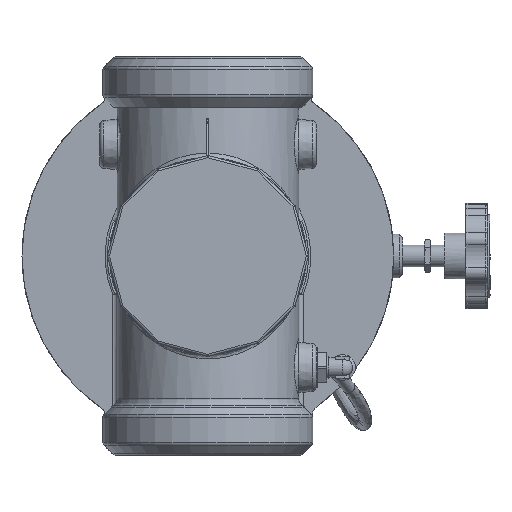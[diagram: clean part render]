
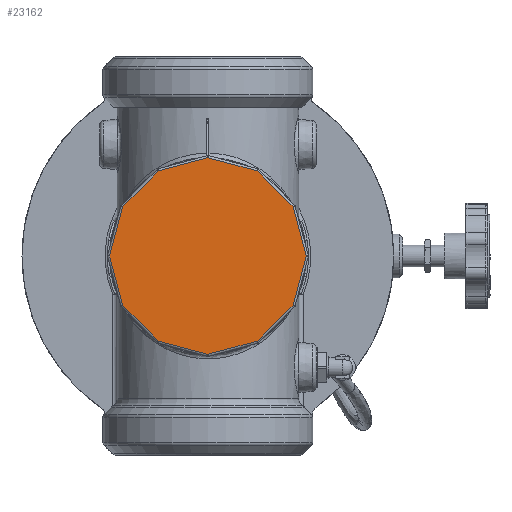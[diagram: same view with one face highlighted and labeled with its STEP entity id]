
A CAD part, front view. The second image highlights one B-rep face of the part: STEP entity #23162.
In plain terms, the highlighted planar face has unit normal (0, -1, 0).
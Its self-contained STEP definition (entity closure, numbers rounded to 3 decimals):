
#1369=PLANE('',#25081);
#2753=FACE_OUTER_BOUND('',#4199,.T.);
#4199=EDGE_LOOP('',(#16747,#16748,#16749,#16750,#16751,#16752,#16753,#16754,
#16755,#16756,#16757,#16758));
#6946=LINE('',#34631,#8236);
#6949=LINE('',#34644,#8239);
#7168=LINE('',#46627,#8458);
#7172=LINE('',#46636,#8462);
#7174=LINE('',#46639,#8464);
#7178=LINE('',#46648,#8468);
#7182=LINE('',#46657,#8472);
#7186=LINE('',#46666,#8476);
#7190=LINE('',#46675,#8480);
#7194=LINE('',#46684,#8484);
#7200=LINE('',#46699,#8490);
#7206=LINE('',#46714,#8496);
#8236=VECTOR('',#27474,23.275);
#8239=VECTOR('',#27487,23.275);
#8458=VECTOR('',#28704,23.275);
#8462=VECTOR('',#28714,23.275);
#8464=VECTOR('',#28718,23.275);
#8468=VECTOR('',#28728,23.275);
#8472=VECTOR('',#28738,23.275);
#8476=VECTOR('',#28748,23.275);
#8480=VECTOR('',#28758,23.275);
#8484=VECTOR('',#28768,23.275);
#8490=VECTOR('',#28784,23.275);
#8496=VECTOR('',#28800,23.275);
#9609=VERTEX_POINT('',#34627);
#9611=VERTEX_POINT('',#34630);
#9616=VERTEX_POINT('',#34642);
#9995=VERTEX_POINT('',#46561);
#9999=VERTEX_POINT('',#46572);
#10003=VERTEX_POINT('',#46581);
#10005=VERTEX_POINT('',#46586);
#10009=VERTEX_POINT('',#46595);
#10011=VERTEX_POINT('',#46600);
#10015=VERTEX_POINT('',#46609);
#10017=VERTEX_POINT('',#46614);
#10021=VERTEX_POINT('',#46623);
#11825=EDGE_CURVE('',#9609,#9611,#6946,.T.);
#11832=EDGE_CURVE('',#9616,#9609,#6949,.T.);
#12486=EDGE_CURVE('',#10017,#10021,#7168,.T.);
#12491=EDGE_CURVE('',#10021,#10015,#7172,.T.);
#12493=EDGE_CURVE('',#10011,#10017,#7174,.T.);
#12498=EDGE_CURVE('',#10015,#10009,#7178,.T.);
#12503=EDGE_CURVE('',#10005,#10011,#7182,.T.);
#12508=EDGE_CURVE('',#10009,#10003,#7186,.T.);
#12513=EDGE_CURVE('',#9999,#10005,#7190,.T.);
#12518=EDGE_CURVE('',#10003,#9616,#7194,.T.);
#12526=EDGE_CURVE('',#9995,#9999,#7200,.T.);
#12534=EDGE_CURVE('',#9611,#9995,#7206,.T.);
#16747=ORIENTED_EDGE('',*,*,#12486,.F.);
#16748=ORIENTED_EDGE('',*,*,#12493,.F.);
#16749=ORIENTED_EDGE('',*,*,#12503,.F.);
#16750=ORIENTED_EDGE('',*,*,#12513,.F.);
#16751=ORIENTED_EDGE('',*,*,#12526,.F.);
#16752=ORIENTED_EDGE('',*,*,#12534,.F.);
#16753=ORIENTED_EDGE('',*,*,#11825,.F.);
#16754=ORIENTED_EDGE('',*,*,#11832,.F.);
#16755=ORIENTED_EDGE('',*,*,#12518,.F.);
#16756=ORIENTED_EDGE('',*,*,#12508,.F.);
#16757=ORIENTED_EDGE('',*,*,#12498,.F.);
#16758=ORIENTED_EDGE('',*,*,#12491,.F.);
#23162=ADVANCED_FACE('',(#2753),#1369,.F.);
#25081=AXIS2_PLACEMENT_3D('',#46749,#28842,#28843);
#27474=DIRECTION('',(0.259,0.,0.966));
#27487=DIRECTION('',(-0.259,0.,0.966));
#28704=DIRECTION('',(-0.259,0.,-0.966));
#28714=DIRECTION('',(-0.707,0.,-0.707));
#28718=DIRECTION('',(0.259,0.,-0.966));
#28728=DIRECTION('',(-0.966,0.,-0.259));
#28738=DIRECTION('',(0.707,0.,-0.707));
#28748=DIRECTION('',(-0.966,0.,0.259));
#28758=DIRECTION('',(0.966,0.,-0.259));
#28768=DIRECTION('',(-0.707,0.,0.707));
#28784=DIRECTION('',(0.966,0.,0.259));
#28800=DIRECTION('',(0.707,0.,0.707));
#28842=DIRECTION('center_axis',(0.,1.,0.));
#28843=DIRECTION('ref_axis',(0.,0.,1.));
#34627=CARTESIAN_POINT('',(-44.965,-75.,-68.));
#34630=CARTESIAN_POINT('',(-38.941,-75.,-45.518));
#34631=CARTESIAN_POINT('',(-44.965,-75.,-68.));
#34642=CARTESIAN_POINT('',(-38.941,-75.,-90.482));
#34644=CARTESIAN_POINT('',(-38.941,-75.,-90.482));
#46561=CARTESIAN_POINT('',(-22.482,-75.,-29.059));
#46572=CARTESIAN_POINT('',(0.,-75.,-23.035));
#46581=CARTESIAN_POINT('',(-22.482,-75.,-106.941));
#46586=CARTESIAN_POINT('',(22.482,-75.,-29.059));
#46595=CARTESIAN_POINT('',(0.,-75.,-112.965));
#46600=CARTESIAN_POINT('',(38.941,-75.,-45.518));
#46609=CARTESIAN_POINT('',(22.482,-75.,-106.941));
#46614=CARTESIAN_POINT('',(44.965,-75.,-68.));
#46623=CARTESIAN_POINT('',(38.941,-75.,-90.482));
#46627=CARTESIAN_POINT('',(44.965,-75.,-68.));
#46636=CARTESIAN_POINT('',(38.941,-75.,-90.482));
#46639=CARTESIAN_POINT('',(38.941,-75.,-45.518));
#46648=CARTESIAN_POINT('',(22.482,-75.,-106.941));
#46657=CARTESIAN_POINT('',(22.482,-75.,-29.059));
#46666=CARTESIAN_POINT('',(0.,-75.,-112.965));
#46675=CARTESIAN_POINT('',(0.,-75.,-23.035));
#46684=CARTESIAN_POINT('',(-22.482,-75.,-106.941));
#46699=CARTESIAN_POINT('',(-22.482,-75.,-29.059));
#46714=CARTESIAN_POINT('',(-38.941,-75.,-45.518));
#46749=CARTESIAN_POINT('Origin',(0.,-75.,-68.));
